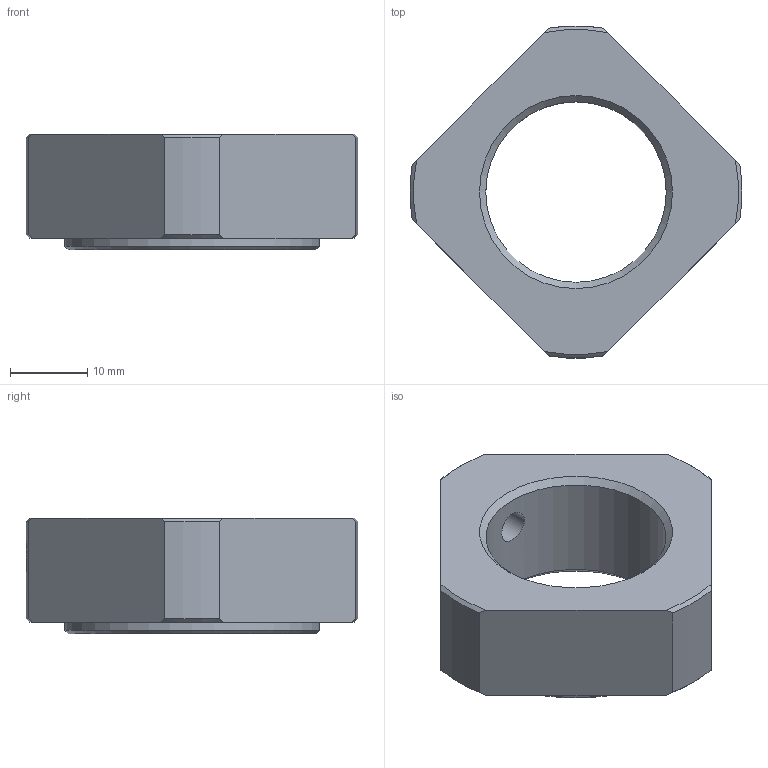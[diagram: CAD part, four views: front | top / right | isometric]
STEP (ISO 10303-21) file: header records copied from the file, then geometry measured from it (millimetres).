
FILE_DESCRIPTION(/* description */ ('STEP AP203'),/* implementation_level */ '2;1');
FILE_NAME(/* name */ 'RN 25',/* time_stamp */ '2025-06-11T07:42:09+02:00',/* author */ ('License CC BY-ND 4.0'),/* organization */ ('CADENAS'),/* preprocessor_version */ 'ST-DEVELOPER v19.3',/* originating_system */ 'PARTsolutions',/* authorisation */ ' ');
FILE_SCHEMA (('CONFIG_CONTROL_DESIGN'));
Length unit declared in the file: millimetre
Products named in the file (1): RN 25
Bounding box: 42.93 x 42.97 x 15 mm (x, y, z)
Volume: 10662.2 mm3; surface area: 4446.3 mm2
Topology: 1 solids, 1 shells, 36 faces, 88 edges, 58 vertices
Faces by surface type: plane 16, cone 12, cylinder 8
Full cylindrical faces by diameter (mm): 4.134 x1, 5 x1, 23.376 x1, 33 x1
Entity records: 1070 total; most frequent: CARTESIAN_POINT 239, DIRECTION 160, ORIENTED_EDGE 156, EDGE_CURVE 78, AXIS2_PLACEMENT_3D 63, VERTEX_POINT 56, EDGE_LOOP 50, FACE_BOUND 50
